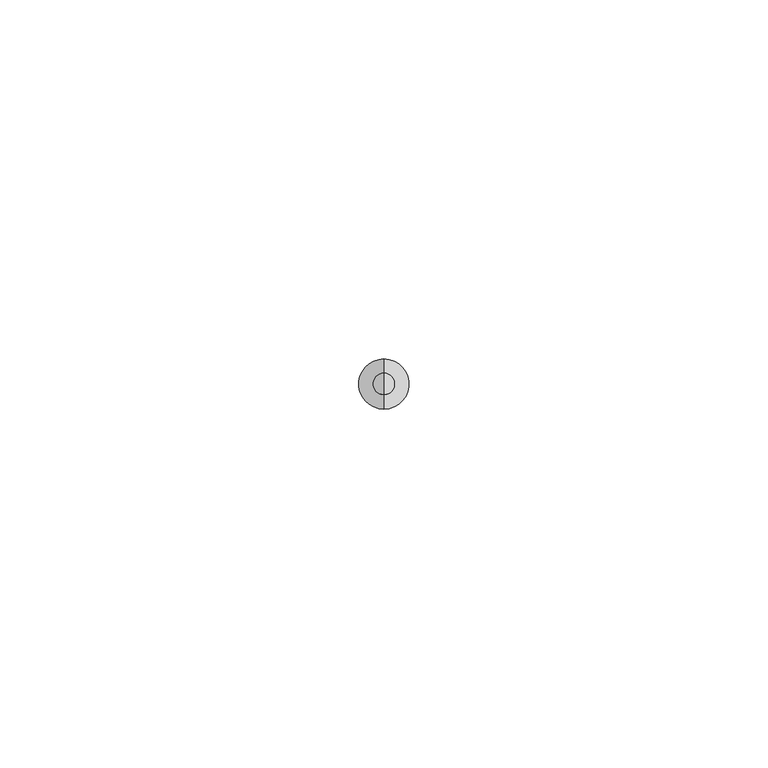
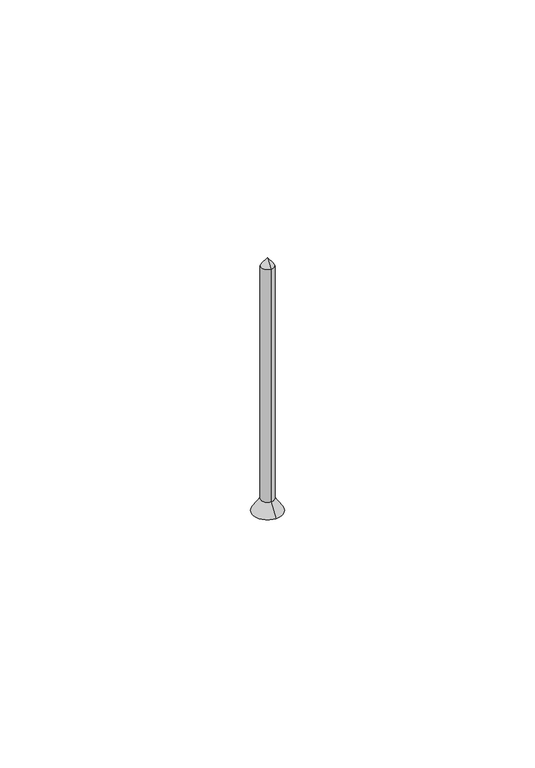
"""IFC4 building model written with IfcOpenShell, lengths in millimetres: furniture geometry, Parafuso de Madeira 60mm x 3mm : Parafuso de Madeira 60mm x 3mm."""

from ifc_helpers import new_model, si_unit, frame, origin, place, context, project, spatial, polyline, circle_curve, source, transform, mapped, element, save
from ifc_brep_helpers import plane_surface, cylinder_surface, revolved_surface, advanced_brep


def furniture_bcf3ffac(model_context):
    return source(origin(), model_context, "Body", "AdvancedBrep", [
        advanced_brep(
        [(0.0, 1.4833876, 61.0), (0.0, 1.4833876, 3.0), (0.0, -1.5, 3.0), (0.0, -1.5, 61.0), (0.0, -0.0083062, 62.988925), (0.0, 3.4833876, 0.0), (0.0, 1.3364349, 0.0), (-0.55, 1.3364349, 0.0), (-0.55, 0.5351948, 0.0), (-1.3512388, 0.5333862, 0.0), (-1.3487558, -0.566611, 0.0), (-0.55, -0.564808, 0.0), (-0.55, -1.3635651, 0.0), (0.0, -1.3635651, 0.0), (0.0, -3.5, 0.0), (0.55, -1.3635651, 0.0), (0.55, -0.562325, 0.0), (1.3512388, -0.5605163, 0.0), (1.3487558, 0.5394809, 0.0), (0.55, 0.5376778, 0.0), (0.55, 1.3364349, 0.0), (0.55, 0.5376778, 2.0), (1.3487558, 0.5394809, 2.0), (1.3512388, -0.5605163, 2.0), (0.55, -0.562325, 2.0), (0.55, -1.3635651, 2.0), (-0.55, -1.3635651, 2.0), (-0.55, -0.564808, 2.0), (-1.3487558, -0.566611, 2.0), (-1.3512388, 0.5333862, 2.0), (-0.55, 0.5351948, 2.0), (-0.55, 1.3364349, 2.0), (0.55, 1.3364349, 2.0)],
        [
            (0, 1),
            (1, 2, circle_curve(frame((0.0, -0.0083062, 3.0), z_axis=(0.0, 0.0, 1.0), x_axis=(0.0, -1.0, 0.0)), 1.4916938)),
            (2, 3),
            (3, 0, circle_curve(frame((0.0, -0.0083062, 61.0), z_axis=(0.0, 0.0, -1.0), x_axis=(0.0, -1.0, 0.0)), 1.4916938)),
            (2, 1, circle_curve(frame((0.0, -0.0083062, 3.0), z_axis=(0.0, 0.0, 1.0), x_axis=(0.0, -1.0, 0.0)), 1.4916938)),
            (0, 3, circle_curve(frame((0.0, -0.0083062, 61.0), z_axis=(0.0, 0.0, -1.0), x_axis=(0.0, -1.0, 0.0)), 1.4916938)),
            (3, 4),
            (4, 0),
            (5, 6),
            (6, 7),
            (7, 8),
            (8, 9),
            (9, 10),
            (10, 11),
            (11, 12),
            (12, 13),
            (13, 14),
            (14, 5, circle_curve(frame((0.0, -0.0083062, 0.0), z_axis=(0.0, 0.0, -1.0), x_axis=(0.0, -1.0, 0.0)), 3.4916938)),
            (13, 15),
            (15, 16),
            (16, 17),
            (17, 18),
            (18, 19),
            (19, 20),
            (20, 6),
            (5, 14, circle_curve(frame((0.0, -0.0083062, 0.0), z_axis=(0.0, 0.0, -1.0), x_axis=(0.0, -1.0, 0.0)), 3.4916938)),
            (1, 5),
            (14, 2),
            (21, 22),
            (22, 23),
            (23, 24),
            (24, 25),
            (25, 26),
            (26, 27),
            (27, 28),
            (28, 29),
            (29, 30),
            (30, 31),
            (31, 32),
            (32, 21),
            (21, 19),
            (18, 22),
            (17, 23),
            (16, 24),
            (15, 25),
            (12, 26),
            (11, 27),
            (10, 28),
            (9, 29),
            (8, 30),
            (7, 31),
            (20, 32),
        ],
        [
            cylinder_surface(frame((0.0, -0.0083062, 63.0), z_axis=(0.0, 0.0, 1.0), x_axis=(0.0, -1.0, 0.0)), 1.4916938),
            revolved_surface(polyline([(0.0, -1.5, 61.0), (0.0, -0.0083062, 62.988925)]), (0.0, -0.0083062, 63.0), (0.0, 0.0, 1.0)),
            plane_surface(frame((0.0, -0.0083062, 0.0), z_axis=(0.0, 0.0, -1.0), x_axis=(0.0, -1.0, 0.0))),
            revolved_surface(polyline([(0.0, -3.5, 0.0), (0.0, -1.5, 3.0)]), (0.0, -0.0083062, 63.0), (0.0, 0.0, 1.0)),
            plane_surface(frame((-1.6512373, 0.532709, 2.0), z_axis=(0.0, 0.0, -1.0), x_axis=(0.9999974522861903, 0.002257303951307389, 0.0))),
            plane_surface(frame((0.55, 0.5376778, 2.0), z_axis=(0.002257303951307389, -0.9999974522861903, 0.0), x_axis=(0.0, 0.0, -1.0))),
            plane_surface(frame((1.3487558, 0.5394809, 2.0), z_axis=(-0.9999974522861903, -0.0022573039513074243, 0.0), x_axis=(0.0, 0.0, -1.0))),
            plane_surface(frame((1.3512388, -0.5605163, 2.0), z_axis=(-0.002257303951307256, 0.9999974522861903, 0.0), x_axis=(0.0, 0.0, -1.0))),
            plane_surface(frame((0.55, -0.562325, 2.0), z_axis=(-1.0, 0.0, 0.0), x_axis=(0.0, 0.0, -1.0))),
            plane_surface(frame((0.55, -1.3635651, 2.0), z_axis=(0.0, 1.0, 0.0), x_axis=(0.0, 0.0, -1.0))),
            plane_surface(frame((-0.55, -1.3635651, 2.0), z_axis=(1.0, 0.0, 0.0), x_axis=(0.0, 0.0, -1.0))),
            plane_surface(frame((-0.55, -0.564808, 2.0), z_axis=(-0.002257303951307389, 0.9999974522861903, 0.0), x_axis=(0.0, 0.0, -1.0))),
            plane_surface(frame((-1.3487558, -0.566611, 2.0), z_axis=(0.9999974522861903, 0.002257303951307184, 0.0), x_axis=(0.0, 0.0, -1.0))),
            plane_surface(frame((-1.3512388, 0.5333862, 2.0), z_axis=(0.0022573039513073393, -0.9999974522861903, 0.0), x_axis=(0.0, 0.0, -1.0))),
            plane_surface(frame((-0.55, 0.5351948, 2.0), z_axis=(1.0, 0.0, 0.0), x_axis=(0.0, 0.0, -1.0))),
            plane_surface(frame((-0.55, 1.3364349, 2.0), z_axis=(0.0, -1.0, 0.0), x_axis=(0.0, 0.0, -1.0))),
            plane_surface(frame((0.55, 1.3364349, 2.0), z_axis=(-1.0, 0.0, 0.0), x_axis=(0.0, 0.0, -1.0))),
        ],
        [
            (0, [[1, 2, 3, 4]]),
            (0, [[5, -1, 6, -3]]),
            (1, [[7, 8, -4]]),
            (1, [[-8, -7, -6]]),
            (2, [[9, 10, 11, 12, 13, 14, 15, 16, 17, 18]]),
            (2, [[-17, 19, 20, 21, 22, 23, 24, 25, -9, 26]]),
            (3, [[27, -18, 28, -2]]),
            (3, [[-28, -26, -27, -5]]),
            (4, [[29, 30, 31, 32, 33, 34, 35, 36, 37, 38, 39, 40]]),
            (5, [[41, -23, 42, -29]]),
            (6, [[-42, -22, 43, -30]]),
            (7, [[-43, -21, 44, -31]]),
            (8, [[-44, -20, 45, -32]]),
            (9, [[-45, -19, -16, 46, -33]]),
            (10, [[-46, -15, 47, -34]]),
            (11, [[-47, -14, 48, -35]]),
            (12, [[-48, -13, 49, -36]]),
            (13, [[-49, -12, 50, -37]]),
            (14, [[-50, -11, 51, -38]]),
            (15, [[-51, -10, -25, 52, -39]]),
            (16, [[-52, -24, -41, -40]]),
        ],
    ),
    ])


if __name__ == "__main__":
    model = new_model("IFC4")
    model_context = context("Model", 3, world=origin())
    ifc_project = project(units=[si_unit("LENGTHUNIT", "METRE", prefix="MILLI")], contexts=[model_context])
    site = spatial("IfcSite", under=ifc_project)
    building = spatial("IfcBuilding", under=site)
    placement = place(None, origin())
    furniture_shape = furniture_bcf3ffac(model_context)
    element("IfcFurniture", 1, ObjectType="Parafuso de Madeira 60mm x 3mm : Parafuso de Madeira 60mm x 3mm", at=placement, inside=building, context=model_context, shape_type="MappedRepresentation", body=[
        mapped(furniture_shape, transform((0.0, 0.0, 0.0), x_axis=(1.0, 0.0, 0.0), y_axis=(0.0, 1.0, 0.0), z_axis=(0.0, 0.0, 1.0))),
    ])
    save(model, "model.ifc")
